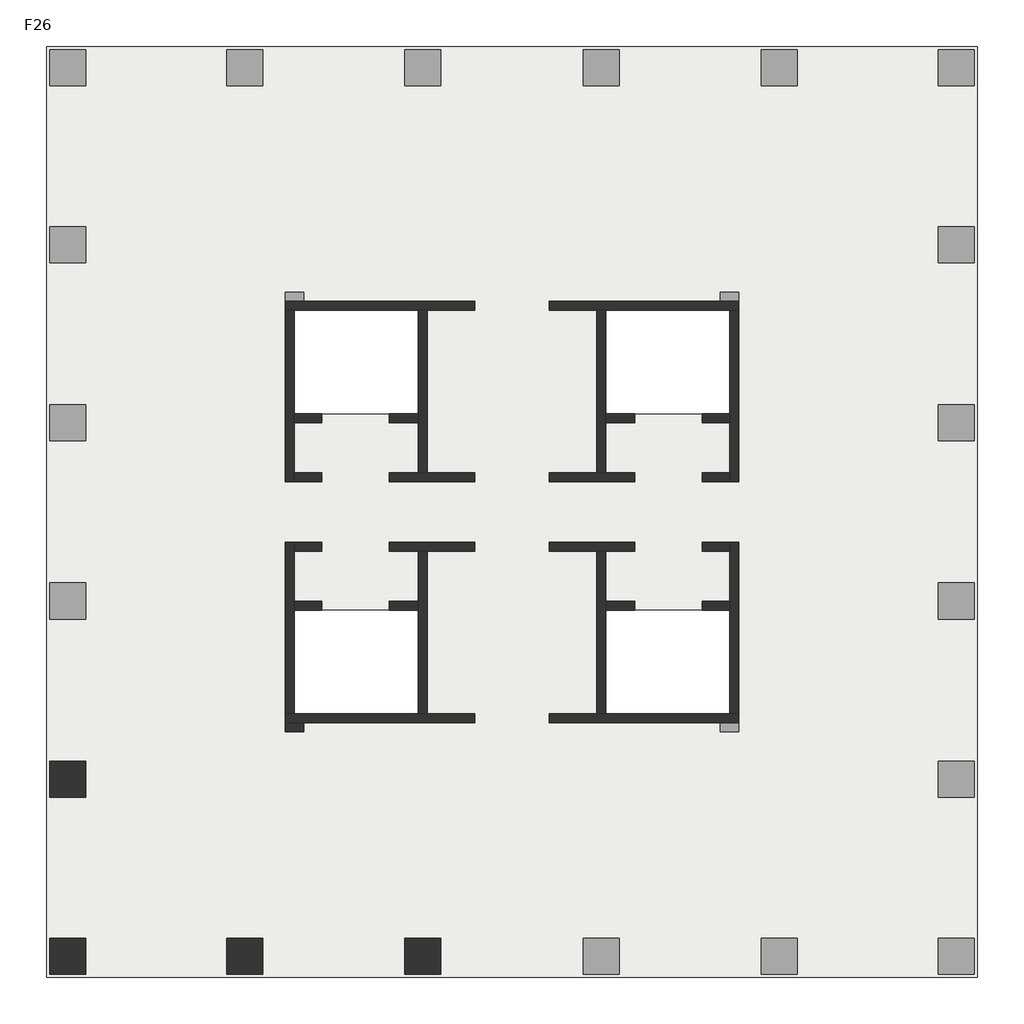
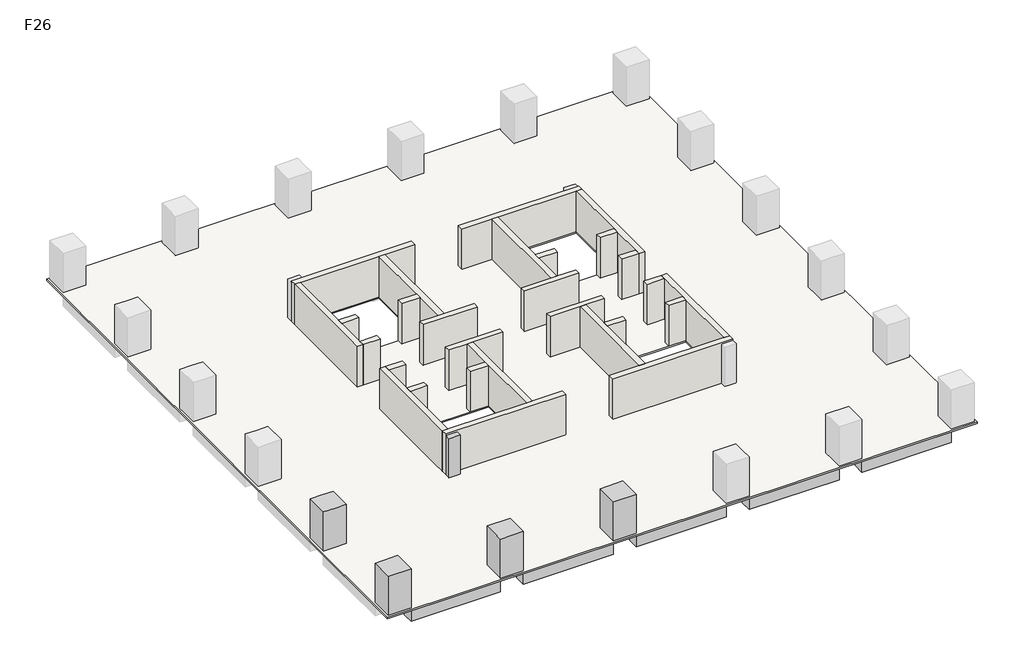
# One storey, part 1 of 2: 28 walls, 5 columns, 3 beams, 1 slab.
"""IFC4 building model written with IfcOpenShell, lengths in millimetres."""

from ifc_helpers import new_model, si_unit, frame, origin, place, context, project, spatial, polyline, outline, extrude, faceted_brep, element, save

model = new_model("IFC4")

# Units and contexts
model_context = context("Model", 3, world=origin())
ifc_project = project(units=[si_unit("LENGTHUNIT", "METRE", prefix="MILLI")], contexts=[model_context])

# Site, building, storey
site = spatial("IfcSite", under=ifc_project)
building = spatial("IfcBuilding", under=site)
storey = spatial("IfcBuildingStorey", under=building, Name="F26", Elevation=96000.0)

# Beams
placement = place(None, origin())
element("IfcBeam", 1, ObjectType="混凝土 - 矩形梁 : KL(5)-800x1000", at=placement, inside=storey, context=model_context, shape_type="SweptSolid", body=[
    extrude(outline(polyline([(-12472.6742169, -13948.9501342), (-12472.6742169, -13148.9501342), (-6222.6742169, -13148.9501342), (-6222.6742169, -13948.9501342), (-12472.6742169, -13948.9501342)])), frame((0.0, 0.0, 95000.0), z_axis=(0.0, 0.0, 1.0), x_axis=(1.0, 0.0, 0.0)), (0.0, 0.0, 1.0), 900.0),
    extrude(outline(polyline([(25327.3257831, -13148.9501342), (25327.3257831, -13948.9501342), (19077.3257831, -13948.9501342), (19077.3257831, -13148.9501342), (25327.3257831, -13148.9501342)])), frame((0.0, 0.0, 95000.0), z_axis=(0.0, 0.0, 1.0), x_axis=(1.0, 0.0, 0.0)), (0.0, 0.0, 1.0), 900.0),
    extrude(outline(polyline([(-4622.6742169, -13948.9501342), (-4622.6742169, -13148.9501342), (1677.3257831, -13148.9501342), (1677.3257831, -13948.9501342), (-4622.6742169, -13948.9501342)])), frame((0.0, 0.0, 95000.0), z_axis=(0.0, 0.0, 1.0), x_axis=(1.0, 0.0, 0.0)), (0.0, 0.0, 1.0), 900.0),
    extrude(outline(polyline([(3277.3257831, -13948.9501342), (3277.3257831, -13148.9501342), (9577.3257831, -13148.9501342), (9577.3257831, -13948.9501342), (3277.3257831, -13948.9501342)])), frame((0.0, 0.0, 95000.0), z_axis=(0.0, 0.0, 1.0), x_axis=(1.0, 0.0, 0.0)), (0.0, 0.0, 1.0), 900.0),
    extrude(outline(polyline([(11177.3257831, -13948.9501342), (11177.3257831, -13148.9501342), (17477.3257831, -13148.9501342), (17477.3257831, -13948.9501342), (11177.3257831, -13948.9501342)])), frame((0.0, 0.0, 95000.0), z_axis=(0.0, 0.0, 1.0), x_axis=(1.0, 0.0, 0.0)), (0.0, 0.0, 1.0), 900.0),
])
element("IfcBeam", 2, ObjectType="混凝土 - 矩形梁 : L1-800x500", at=placement, inside=storey, context=model_context, shape_type="Brep", body=[
    faceted_brep([(-12472.6742169, -5512.1353397, 95500.0), (-3746.9473979, -3341.556529, 95500.0), (-3173.6696907, -3198.9501342, 95500.0), (-3173.6696907, -3198.9501342, 95900.0), (-3746.9473979, -3341.556529, 95900.0), (-12472.6742169, -5512.1353397, 95900.0), (-3622.6742169, -3198.9501342, 95500.0), (-12472.6742169, -4687.7549784, 95500.0), (-3622.6742169, -2486.2624411, 95500.0), (-3622.6742169, -2798.9501342, 95500.0), (-12472.6742169, -4687.7549784, 95900.0), (-3622.6742169, -2486.2624411, 95900.0), (-3622.6742169, -3198.9501342, 95900.0)], [[[0, 1, 2, 3, 4, 5]], [[6, 2, 1, 0, 7, 8, 9]], [[8, 7, 10, 11]], [[2, 6, 12, 3]], [[9, 8, 11, 12, 6]], [[7, 0, 5, 10]], [[5, 4, 3, 12, 11, 10]]]),
])
element("IfcBeam", 3, ObjectType="混凝土 - 矩形梁 : L1-800x500", at=placement, inside=storey, context=model_context, shape_type="SweptSolid", body=[
    extrude(outline(polyline([(-3746.9473979, -3341.556529), (-3173.6696907, -3198.9501342), (-2898.7618154, -3198.9501342), (-4843.6893517, -12348.9501342), (-5661.5624638, -12348.9501342), (-3746.9473979, -3341.556529)])), frame((0.0, 0.0, 95500.0), z_axis=(0.0, 0.0, 1.0), x_axis=(1.0, 0.0, 0.0)), (0.0, 0.0, 1.0), 400.0),
])

# Columns
element("IfcColumn", 4, ObjectType="混凝土 - 矩形 - 柱 : Z1-1600x1600", at=placement, inside=storey, context=model_context, shape_type="Brep", body=[
    faceted_brep([(-12472.6742169, -4498.9501342, 96000.0), (-12472.6742169, -6098.9501342, 96000.0), (-14072.6742169, -6098.9501342, 96000.0), (-14072.6742169, -4498.9501342, 96000.0), (-12472.6742169, -4498.9501342, 98900.0), (-12472.6742169, -6098.9501342, 98900.0), (-13272.6742169, -6098.9501342, 98900.0), (-14072.6742169, -6098.9501342, 98900.0), (-14072.6742169, -6098.9501342, 98000.0), (-14072.6742169, -4498.9501342, 98900.0), (-14072.6742169, -4498.9501342, 98000.0), (-13272.6742169, -4498.9501342, 98900.0)], [[[0, 1, 2, 3]], [[1, 0, 4, 5]], [[2, 1, 5, 6, 7, 8]], [[3, 2, 8, 7, 9, 10]], [[0, 3, 10, 9, 11, 4]], [[5, 4, 11, 9, 7, 6]]]),
])
element("IfcColumn", 5, ObjectType="混凝土 - 矩形 - 柱 : Z1-1600x1600", at=placement, inside=storey, context=model_context, shape_type="SweptSolid", body=[
    extrude(outline(polyline([(-12472.6742169, -12348.9501342), (-12472.6742169, -13948.9501342), (-14072.6742169, -13948.9501342), (-14072.6742169, -12348.9501342), (-12472.6742169, -12348.9501342)])), frame((0.0, 0.0, 96000.0), z_axis=(0.0, 0.0, 1.0), x_axis=(1.0, 0.0, 0.0)), (0.0, 0.0, 1.0), 2900.0),
])
element("IfcColumn", 6, ObjectType="混凝土 - 矩形 - 柱 : Z1-1600x1600", at=placement, inside=storey, context=model_context, shape_type="Brep", body=[
    faceted_brep([(-4622.6742169, -12348.9501342, 96000.0), (-4622.6742169, -13948.9501342, 96000.0), (-6222.6742169, -13948.9501342, 96000.0), (-6222.6742169, -12348.9501342, 96000.0), (-4622.6742169, -12348.9501342, 98900.0), (-4622.6742169, -13148.9501342, 98900.0), (-4622.6742169, -13948.9501342, 98900.0), (-4622.6742169, -13948.9501342, 98000.0), (-6222.6742169, -13948.9501342, 98900.0), (-6222.6742169, -13948.9501342, 98000.0), (-6222.6742169, -13148.9501342, 98900.0), (-6222.6742169, -12348.9501342, 98900.0)], [[[0, 1, 2, 3]], [[1, 0, 4, 5, 6, 7]], [[2, 1, 7, 6, 8, 9]], [[3, 2, 9, 8, 10, 11]], [[0, 3, 11, 4]], [[6, 5, 4, 11, 10, 8]]]),
])
element("IfcColumn", 7, ObjectType="混凝土 - 矩形 - 柱 : Z1-1600x1600", at=placement, inside=storey, context=model_context, shape_type="Brep", body=[
    faceted_brep([(3277.3257831, -12348.9501342, 96000.0), (3277.3257831, -13948.9501342, 96000.0), (1677.3257831, -13948.9501342, 96000.0), (1677.3257831, -12348.9501342, 96000.0), (3277.3257831, -12348.9501342, 98900.0), (3277.3257831, -13148.9501342, 98900.0), (3277.3257831, -13948.9501342, 98900.0), (3277.3257831, -13948.9501342, 98000.0), (1677.3257831, -13948.9501342, 98900.0), (1677.3257831, -13948.9501342, 98000.0), (1677.3257831, -13148.9501342, 98900.0), (1677.3257831, -12348.9501342, 98900.0)], [[[0, 1, 2, 3]], [[1, 0, 4, 5, 6, 7]], [[2, 1, 7, 6, 8, 9]], [[3, 2, 9, 8, 10, 11]], [[0, 3, 11, 4]], [[6, 5, 4, 11, 10, 8]]]),
])
element("IfcColumn", 8, ObjectType="混凝土 - 矩形 - 柱 : Z2-800x800", at=placement, inside=storey, context=model_context, shape_type="SweptSolid", body=[
    extrude(outline(polyline([(-2822.6742169, -3198.9501342), (-3622.6742169, -3198.9501342), (-3622.6742169, -2798.9501342), (-2822.6742169, -2798.9501342), (-2822.6742169, -3198.9501342)])), frame((0.0, 0.0, 96000.0), z_axis=(0.0, 0.0, 1.0), x_axis=(1.0, 0.0, 0.0)), (0.0, 0.0, 1.0), 2900.0),
])

# Slab
element("IfcSlab", 9, ObjectType="LB-100", at=placement, inside=storey, context=model_context, shape_type="SweptSolid", body=[
    extrude(outline(polyline([(27077.3257831, 27201.0498658), (27077.3257831, -14085.2672073), (-14222.6742169, -14085.2672073), (-14222.6742169, 27201.0498658), (27077.3257831, 27201.0498658)]), holes=[polyline([(2277.3257831, 15501.0498658), (-3222.6742169, 15501.0498658), (-3222.6742169, 10901.0498658), (2277.3257831, 10901.0498658), (2277.3257831, 15501.0498658)]), polyline([(2277.3257831, 2201.0498658), (-3222.6742169, 2201.0498658), (-3222.6742169, -2398.9501342), (2277.3257831, -2398.9501342), (2277.3257831, 2201.0498658)]), polyline([(16077.3257831, 2201.0498658), (10577.3257831, 2201.0498658), (10577.3257831, -2398.9501342), (16077.3257831, -2398.9501342), (16077.3257831, 2201.0498658)]), polyline([(16077.3257831, 15501.0498658), (10577.3257831, 15501.0498658), (10577.3257831, 10901.0498658), (16077.3257831, 10901.0498658), (16077.3257831, 15501.0498658)])]), frame((0.0, 0.0, 95900.0), z_axis=(0.0, 0.0, 1.0), x_axis=(1.0, 0.0, 0.0)), (0.0, 0.0, 1.0), 100.0),
])

# Walls
element("IfcWall", 10, ObjectType="剪力墙-400", at=placement, inside=storey, context=model_context, shape_type="Brep", body=[
    faceted_brep([(-3622.6742169, 15501.0498658, 96000.0), (-3222.6742169, 15501.0498658, 96000.0), (2277.3257831, 15501.0498658, 96000.0), (2677.3257831, 15501.0498658, 96000.0), (4777.3257831, 15501.0498658, 96000.0), (4777.3257831, 15501.0498658, 99000.0), (2677.3257831, 15501.0498658, 99000.0), (2277.3257831, 15501.0498658, 99000.0), (-3222.6742169, 15501.0498658, 99000.0), (-3622.6742169, 15501.0498658, 99000.0), (-3622.6742169, 15901.0498658, 96000.0), (-3622.6742169, 15901.0498658, 98900.0), (-3622.6742169, 15901.0498658, 99000.0), (4777.3257831, 15901.0498658, 99000.0), (4777.3257831, 15901.0498658, 96000.0), (-2822.6742169, 15901.0498658, 96000.0)], [[[0, 1, 2, 3, 4, 5, 6, 7, 8, 9]], [[10, 11, 12, 13, 14, 15]], [[4, 3, 2, 1, 0, 10, 15, 14]], [[5, 4, 14, 13]], [[9, 8, 7, 6, 5, 13, 12]], [[0, 9, 12, 11, 10]]]),
])
element("IfcWall", 11, ObjectType="剪力墙-400", at=placement, inside=storey, context=model_context, shape_type="Brep", body=[
    faceted_brep([(2277.3257831, 15501.0498658, 96000.0), (2277.3257831, 10901.0498658, 96000.0), (2277.3257831, 10501.0498658, 96000.0), (2277.3257831, 8301.0498658, 96000.0), (2277.3257831, 8301.0498658, 99000.0), (2277.3257831, 10501.0498658, 99000.0), (2277.3257831, 10901.0498658, 99000.0), (2277.3257831, 15501.0498658, 99000.0), (2677.3257831, 15501.0498658, 96000.0), (2677.3257831, 15501.0498658, 99000.0), (2677.3257831, 8301.0498658, 99000.0), (2677.3257831, 8301.0498658, 96000.0)], [[[0, 1, 2, 3, 4, 5, 6, 7]], [[8, 9, 10, 11]], [[3, 2, 1, 0, 8, 11]], [[7, 6, 5, 4, 10, 9]], [[0, 7, 9, 8]], [[4, 3, 11, 10]]]),
])
element("IfcWall", 12, ObjectType="剪力墙-400", at=placement, inside=storey, context=model_context, shape_type="Brep", body=[
    faceted_brep([(-3622.6742169, 15501.0498658, 96000.0), (-3622.6742169, 7901.0498658, 96000.0), (-3622.6742169, 7901.0498658, 99000.0), (-3622.6742169, 15501.0498658, 99000.0), (-3222.6742169, 15501.0498658, 96000.0), (-3222.6742169, 15501.0498658, 99000.0), (-3222.6742169, 10901.0498658, 99000.0), (-3222.6742169, 10501.0498658, 99000.0), (-3222.6742169, 8301.0498658, 99000.0), (-3222.6742169, 7901.0498658, 99000.0), (-3222.6742169, 7901.0498658, 96000.0), (-3222.6742169, 8301.0498658, 96000.0), (-3222.6742169, 10501.0498658, 96000.0), (-3222.6742169, 10901.0498658, 96000.0)], [[[0, 1, 2, 3]], [[4, 5, 6, 7, 8, 9, 10, 11, 12, 13]], [[1, 0, 4, 13, 12, 11, 10]], [[3, 2, 9, 8, 7, 6, 5]], [[0, 3, 5, 4]], [[2, 1, 10, 9]]]),
])
element("IfcWall", 13, ObjectType="剪力墙-400", at=placement, inside=storey, context=model_context, shape_type="SweptSolid", body=[
    extrude(outline(polyline([(-2022.6742169, 7901.0498658), (-3222.6742169, 7901.0498658), (-3222.6742169, 8301.0498658), (-2022.6742169, 8301.0498658), (-2022.6742169, 7901.0498658)])), frame((0.0, 0.0, 96000.0), z_axis=(0.0, 0.0, 1.0), x_axis=(1.0, 0.0, 0.0)), (0.0, 0.0, 1.0), 3000.0),
])
element("IfcWall", 14, ObjectType="剪力墙-400", at=placement, inside=storey, context=model_context, shape_type="Brep", body=[
    faceted_brep([(977.3257831, 7901.0498658, 96000.0), (4777.3257831, 7901.0498658, 96000.0), (4777.3257831, 7901.0498658, 99000.0), (977.3257831, 7901.0498658, 99000.0), (977.3257831, 8301.0498658, 96000.0), (977.3257831, 8301.0498658, 99000.0), (2277.3257831, 8301.0498658, 99000.0), (2677.3257831, 8301.0498658, 99000.0), (4777.3257831, 8301.0498658, 99000.0), (4777.3257831, 8301.0498658, 96000.0), (2677.3257831, 8301.0498658, 96000.0), (2277.3257831, 8301.0498658, 96000.0)], [[[0, 1, 2, 3]], [[4, 5, 6, 7, 8, 9, 10, 11]], [[1, 0, 4, 11, 10, 9]], [[2, 1, 9, 8]], [[3, 2, 8, 7, 6, 5]], [[0, 3, 5, 4]]]),
])
element("IfcWall", 15, ObjectType="剪力墙-400", at=placement, inside=storey, context=model_context, shape_type="SweptSolid", body=[
    extrude(outline(polyline([(-2022.6742169, 10501.0498658), (-3222.6742169, 10501.0498658), (-3222.6742169, 10901.0498658), (-2022.6742169, 10901.0498658), (-2022.6742169, 10501.0498658)])), frame((0.0, 0.0, 96000.0), z_axis=(0.0, 0.0, 1.0), x_axis=(1.0, 0.0, 0.0)), (0.0, 0.0, 1.0), 3000.0),
])
element("IfcWall", 16, ObjectType="剪力墙-400", at=placement, inside=storey, context=model_context, shape_type="SweptSolid", body=[
    extrude(outline(polyline([(2277.3257831, 10501.0498658), (977.3257831, 10501.0498658), (977.3257831, 10901.0498658), (2277.3257831, 10901.0498658), (2277.3257831, 10501.0498658)])), frame((0.0, 0.0, 96000.0), z_axis=(0.0, 0.0, 1.0), x_axis=(1.0, 0.0, 0.0)), (0.0, 0.0, 1.0), 3000.0),
])
element("IfcWall", 17, ObjectType="剪力墙-400", at=placement, inside=storey, context=model_context, shape_type="Brep", body=[
    faceted_brep([(16477.3257831, 15901.0498658, 96000.0), (15677.3257831, 15901.0498658, 96000.0), (8077.3257831, 15901.0498658, 96000.0), (8077.3257831, 15901.0498658, 99000.0), (16477.3257831, 15901.0498658, 99000.0), (16477.3257831, 15901.0498658, 98900.0), (16477.3257831, 15501.0498658, 96000.0), (16477.3257831, 15501.0498658, 99000.0), (16077.3257831, 15501.0498658, 99000.0), (10577.3257831, 15501.0498658, 99000.0), (10177.3257831, 15501.0498658, 99000.0), (8077.3257831, 15501.0498658, 99000.0), (8077.3257831, 15501.0498658, 96000.0), (10177.3257831, 15501.0498658, 96000.0), (10577.3257831, 15501.0498658, 96000.0), (16077.3257831, 15501.0498658, 96000.0)], [[[0, 1, 2, 3, 4, 5]], [[6, 7, 8, 9, 10, 11, 12, 13, 14, 15]], [[2, 1, 0, 6, 15, 14, 13, 12]], [[3, 2, 12, 11]], [[4, 3, 11, 10, 9, 8, 7]], [[0, 5, 4, 7, 6]]]),
])
element("IfcWall", 18, ObjectType="剪力墙-400", at=placement, inside=storey, context=model_context, shape_type="Brep", body=[
    faceted_brep([(10177.3257831, 15501.0498658, 96000.0), (10177.3257831, 8301.0498658, 96000.0), (10177.3257831, 8301.0498658, 99000.0), (10177.3257831, 15501.0498658, 99000.0), (10577.3257831, 15501.0498658, 96000.0), (10577.3257831, 15501.0498658, 99000.0), (10577.3257831, 10901.0498658, 99000.0), (10577.3257831, 10501.0498658, 99000.0), (10577.3257831, 8301.0498658, 99000.0), (10577.3257831, 8301.0498658, 96000.0), (10577.3257831, 10501.0498658, 96000.0), (10577.3257831, 10901.0498658, 96000.0)], [[[0, 1, 2, 3]], [[4, 5, 6, 7, 8, 9, 10, 11]], [[1, 0, 4, 11, 10, 9]], [[3, 2, 8, 7, 6, 5]], [[0, 3, 5, 4]], [[2, 1, 9, 8]]]),
])
element("IfcWall", 19, ObjectType="剪力墙-400", at=placement, inside=storey, context=model_context, shape_type="Brep", body=[
    faceted_brep([(16077.3257831, 15501.0498658, 96000.0), (16077.3257831, 10901.0498658, 96000.0), (16077.3257831, 10501.0498658, 96000.0), (16077.3257831, 8301.0498658, 96000.0), (16077.3257831, 7901.0498658, 96000.0), (16077.3257831, 7901.0498658, 99000.0), (16077.3257831, 8301.0498658, 99000.0), (16077.3257831, 10501.0498658, 99000.0), (16077.3257831, 10901.0498658, 99000.0), (16077.3257831, 15501.0498658, 99000.0), (16477.3257831, 15501.0498658, 96000.0), (16477.3257831, 15501.0498658, 99000.0), (16477.3257831, 7901.0498658, 99000.0), (16477.3257831, 7901.0498658, 96000.0)], [[[0, 1, 2, 3, 4, 5, 6, 7, 8, 9]], [[10, 11, 12, 13]], [[4, 3, 2, 1, 0, 10, 13]], [[9, 8, 7, 6, 5, 12, 11]], [[0, 9, 11, 10]], [[5, 4, 13, 12]]]),
])
element("IfcWall", 20, ObjectType="剪力墙-400", at=placement, inside=storey, context=model_context, shape_type="SweptSolid", body=[
    extrude(outline(polyline([(14877.3257831, 8301.0498658), (16077.3257831, 8301.0498658), (16077.3257831, 7901.0498658), (14877.3257831, 7901.0498658), (14877.3257831, 8301.0498658)])), frame((0.0, 0.0, 96000.0), z_axis=(0.0, 0.0, 1.0), x_axis=(1.0, 0.0, 0.0)), (0.0, 0.0, 1.0), 3000.0),
])
element("IfcWall", 21, ObjectType="剪力墙-400", at=placement, inside=storey, context=model_context, shape_type="Brep", body=[
    faceted_brep([(11877.3257831, 8301.0498658, 96000.0), (10577.3257831, 8301.0498658, 96000.0), (10177.3257831, 8301.0498658, 96000.0), (8077.3257831, 8301.0498658, 96000.0), (8077.3257831, 8301.0498658, 99000.0), (10177.3257831, 8301.0498658, 99000.0), (10577.3257831, 8301.0498658, 99000.0), (11877.3257831, 8301.0498658, 99000.0), (11877.3257831, 7901.0498658, 96000.0), (11877.3257831, 7901.0498658, 99000.0), (8077.3257831, 7901.0498658, 99000.0), (8077.3257831, 7901.0498658, 96000.0)], [[[0, 1, 2, 3, 4, 5, 6, 7]], [[8, 9, 10, 11]], [[3, 2, 1, 0, 8, 11]], [[4, 3, 11, 10]], [[7, 6, 5, 4, 10, 9]], [[0, 7, 9, 8]]]),
])
element("IfcWall", 22, ObjectType="剪力墙-400", at=placement, inside=storey, context=model_context, shape_type="SweptSolid", body=[
    extrude(outline(polyline([(14877.3257831, 10901.0498658), (16077.3257831, 10901.0498658), (16077.3257831, 10501.0498658), (14877.3257831, 10501.0498658), (14877.3257831, 10901.0498658)])), frame((0.0, 0.0, 96000.0), z_axis=(0.0, 0.0, 1.0), x_axis=(1.0, 0.0, 0.0)), (0.0, 0.0, 1.0), 3000.0),
])
element("IfcWall", 23, ObjectType="剪力墙-400", at=placement, inside=storey, context=model_context, shape_type="SweptSolid", body=[
    extrude(outline(polyline([(10577.3257831, 10901.0498658), (11877.3257831, 10901.0498658), (11877.3257831, 10501.0498658), (10577.3257831, 10501.0498658), (10577.3257831, 10901.0498658)])), frame((0.0, 0.0, 96000.0), z_axis=(0.0, 0.0, 1.0), x_axis=(1.0, 0.0, 0.0)), (0.0, 0.0, 1.0), 3000.0),
])
element("IfcWall", 24, ObjectType="剪力墙-400", at=placement, inside=storey, context=model_context, shape_type="Brep", body=[
    faceted_brep([(-3622.6742169, -2798.9501342, 96000.0), (-2822.6742169, -2798.9501342, 96000.0), (4777.3257831, -2798.9501342, 96000.0), (4777.3257831, -2798.9501342, 99000.0), (-3622.6742169, -2798.9501342, 99000.0), (-3622.6742169, -2798.9501342, 98900.0), (-3622.6742169, -2398.9501342, 96000.0), (-3622.6742169, -2398.9501342, 99000.0), (-3222.6742169, -2398.9501342, 99000.0), (2277.3257831, -2398.9501342, 99000.0), (2677.3257831, -2398.9501342, 99000.0), (4777.3257831, -2398.9501342, 99000.0), (4777.3257831, -2398.9501342, 96000.0), (2677.3257831, -2398.9501342, 96000.0), (2277.3257831, -2398.9501342, 96000.0), (-3222.6742169, -2398.9501342, 96000.0)], [[[0, 1, 2, 3, 4, 5]], [[6, 7, 8, 9, 10, 11, 12, 13, 14, 15]], [[2, 1, 0, 6, 15, 14, 13, 12]], [[3, 2, 12, 11]], [[4, 3, 11, 10, 9, 8, 7]], [[0, 5, 4, 7, 6]]]),
])
element("IfcWall", 25, ObjectType="剪力墙-400", at=placement, inside=storey, context=model_context, shape_type="Brep", body=[
    faceted_brep([(2677.3257831, -2398.9501342, 96000.0), (2677.3257831, 4801.0498658, 96000.0), (2677.3257831, 4801.0498658, 99000.0), (2677.3257831, -2398.9501342, 99000.0), (2277.3257831, -2398.9501342, 96000.0), (2277.3257831, -2398.9501342, 99000.0), (2277.3257831, 2201.0498658, 99000.0), (2277.3257831, 2601.0498658, 99000.0), (2277.3257831, 4801.0498658, 99000.0), (2277.3257831, 4801.0498658, 96000.0), (2277.3257831, 2601.0498658, 96000.0), (2277.3257831, 2201.0498658, 96000.0)], [[[0, 1, 2, 3]], [[4, 5, 6, 7, 8, 9, 10, 11]], [[1, 0, 4, 11, 10, 9]], [[3, 2, 8, 7, 6, 5]], [[0, 3, 5, 4]], [[2, 1, 9, 8]]]),
])
element("IfcWall", 26, ObjectType="剪力墙-400", at=placement, inside=storey, context=model_context, shape_type="Brep", body=[
    faceted_brep([(-3222.6742169, -2398.9501342, 96000.0), (-3222.6742169, 2201.0498658, 96000.0), (-3222.6742169, 2601.0498658, 96000.0), (-3222.6742169, 4801.0498658, 96000.0), (-3222.6742169, 5201.0498658, 96000.0), (-3222.6742169, 5201.0498658, 99000.0), (-3222.6742169, 4801.0498658, 99000.0), (-3222.6742169, 2601.0498658, 99000.0), (-3222.6742169, 2201.0498658, 99000.0), (-3222.6742169, -2398.9501342, 99000.0), (-3622.6742169, -2398.9501342, 96000.0), (-3622.6742169, -2398.9501342, 99000.0), (-3622.6742169, 5201.0498658, 99000.0), (-3622.6742169, 5201.0498658, 96000.0)], [[[0, 1, 2, 3, 4, 5, 6, 7, 8, 9]], [[10, 11, 12, 13]], [[4, 3, 2, 1, 0, 10, 13]], [[9, 8, 7, 6, 5, 12, 11]], [[0, 9, 11, 10]], [[5, 4, 13, 12]]]),
])
element("IfcWall", 27, ObjectType="剪力墙-400", at=placement, inside=storey, context=model_context, shape_type="SweptSolid", body=[
    extrude(outline(polyline([(-2022.6742169, 4801.0498658), (-3222.6742169, 4801.0498658), (-3222.6742169, 5201.0498658), (-2022.6742169, 5201.0498658), (-2022.6742169, 4801.0498658)])), frame((0.0, 0.0, 96000.0), z_axis=(0.0, 0.0, 1.0), x_axis=(1.0, 0.0, 0.0)), (0.0, 0.0, 1.0), 3000.0),
])
element("IfcWall", 28, ObjectType="剪力墙-400", at=placement, inside=storey, context=model_context, shape_type="Brep", body=[
    faceted_brep([(977.3257831, 4801.0498658, 96000.0), (2277.3257831, 4801.0498658, 96000.0), (2677.3257831, 4801.0498658, 96000.0), (4777.3257831, 4801.0498658, 96000.0), (4777.3257831, 4801.0498658, 99000.0), (2677.3257831, 4801.0498658, 99000.0), (2277.3257831, 4801.0498658, 99000.0), (977.3257831, 4801.0498658, 99000.0), (977.3257831, 5201.0498658, 96000.0), (977.3257831, 5201.0498658, 99000.0), (4777.3257831, 5201.0498658, 99000.0), (4777.3257831, 5201.0498658, 96000.0)], [[[0, 1, 2, 3, 4, 5, 6, 7]], [[8, 9, 10, 11]], [[3, 2, 1, 0, 8, 11]], [[4, 3, 11, 10]], [[7, 6, 5, 4, 10, 9]], [[0, 7, 9, 8]]]),
])
element("IfcWall", 29, ObjectType="剪力墙-400", at=placement, inside=storey, context=model_context, shape_type="SweptSolid", body=[
    extrude(outline(polyline([(-2022.6742169, 2201.0498658), (-3222.6742169, 2201.0498658), (-3222.6742169, 2601.0498658), (-2022.6742169, 2601.0498658), (-2022.6742169, 2201.0498658)])), frame((0.0, 0.0, 96000.0), z_axis=(0.0, 0.0, 1.0), x_axis=(1.0, 0.0, 0.0)), (0.0, 0.0, 1.0), 3000.0),
])
element("IfcWall", 30, ObjectType="剪力墙-400", at=placement, inside=storey, context=model_context, shape_type="SweptSolid", body=[
    extrude(outline(polyline([(2277.3257831, 2201.0498658), (977.3257831, 2201.0498658), (977.3257831, 2601.0498658), (2277.3257831, 2601.0498658), (2277.3257831, 2201.0498658)])), frame((0.0, 0.0, 96000.0), z_axis=(0.0, 0.0, 1.0), x_axis=(1.0, 0.0, 0.0)), (0.0, 0.0, 1.0), 3000.0),
])
element("IfcWall", 31, ObjectType="剪力墙-400", at=placement, inside=storey, context=model_context, shape_type="Brep", body=[
    faceted_brep([(16477.3257831, -2398.9501342, 96000.0), (16077.3257831, -2398.9501342, 96000.0), (10577.3257831, -2398.9501342, 96000.0), (10177.3257831, -2398.9501342, 96000.0), (8077.3257831, -2398.9501342, 96000.0), (8077.3257831, -2398.9501342, 99000.0), (10177.3257831, -2398.9501342, 99000.0), (10577.3257831, -2398.9501342, 99000.0), (16077.3257831, -2398.9501342, 99000.0), (16477.3257831, -2398.9501342, 99000.0), (16477.3257831, -2798.9501342, 96000.0), (16477.3257831, -2798.9501342, 98900.0), (16477.3257831, -2798.9501342, 99000.0), (8077.3257831, -2798.9501342, 99000.0), (8077.3257831, -2798.9501342, 96000.0), (15677.3257831, -2798.9501342, 96000.0)], [[[0, 1, 2, 3, 4, 5, 6, 7, 8, 9]], [[10, 11, 12, 13, 14, 15]], [[4, 3, 2, 1, 0, 10, 15, 14]], [[5, 4, 14, 13]], [[9, 8, 7, 6, 5, 13, 12]], [[0, 9, 12, 11, 10]]]),
])
element("IfcWall", 32, ObjectType="剪力墙-400", at=placement, inside=storey, context=model_context, shape_type="Brep", body=[
    faceted_brep([(10577.3257831, -2398.9501342, 96000.0), (10577.3257831, 2201.0498658, 96000.0), (10577.3257831, 2601.0498658, 96000.0), (10577.3257831, 4801.0498658, 96000.0), (10577.3257831, 4801.0498658, 99000.0), (10577.3257831, 2601.0498658, 99000.0), (10577.3257831, 2201.0498658, 99000.0), (10577.3257831, -2398.9501342, 99000.0), (10177.3257831, -2398.9501342, 96000.0), (10177.3257831, -2398.9501342, 99000.0), (10177.3257831, 4801.0498658, 99000.0), (10177.3257831, 4801.0498658, 96000.0)], [[[0, 1, 2, 3, 4, 5, 6, 7]], [[8, 9, 10, 11]], [[3, 2, 1, 0, 8, 11]], [[7, 6, 5, 4, 10, 9]], [[0, 7, 9, 8]], [[4, 3, 11, 10]]]),
])
element("IfcWall", 33, ObjectType="剪力墙-400", at=placement, inside=storey, context=model_context, shape_type="Brep", body=[
    faceted_brep([(16477.3257831, -2398.9501342, 96000.0), (16477.3257831, 5201.0498658, 96000.0), (16477.3257831, 5201.0498658, 99000.0), (16477.3257831, -2398.9501342, 99000.0), (16077.3257831, -2398.9501342, 96000.0), (16077.3257831, -2398.9501342, 99000.0), (16077.3257831, 2201.0498658, 99000.0), (16077.3257831, 2601.0498658, 99000.0), (16077.3257831, 4801.0498658, 99000.0), (16077.3257831, 5201.0498658, 99000.0), (16077.3257831, 5201.0498658, 96000.0), (16077.3257831, 4801.0498658, 96000.0), (16077.3257831, 2601.0498658, 96000.0), (16077.3257831, 2201.0498658, 96000.0)], [[[0, 1, 2, 3]], [[4, 5, 6, 7, 8, 9, 10, 11, 12, 13]], [[1, 0, 4, 13, 12, 11, 10]], [[3, 2, 9, 8, 7, 6, 5]], [[0, 3, 5, 4]], [[2, 1, 10, 9]]]),
])
element("IfcWall", 34, ObjectType="剪力墙-400", at=placement, inside=storey, context=model_context, shape_type="SweptSolid", body=[
    extrude(outline(polyline([(14877.3257831, 5201.0498658), (16077.3257831, 5201.0498658), (16077.3257831, 4801.0498658), (14877.3257831, 4801.0498658), (14877.3257831, 5201.0498658)])), frame((0.0, 0.0, 96000.0), z_axis=(0.0, 0.0, 1.0), x_axis=(1.0, 0.0, 0.0)), (0.0, 0.0, 1.0), 3000.0),
])
element("IfcWall", 35, ObjectType="剪力墙-400", at=placement, inside=storey, context=model_context, shape_type="Brep", body=[
    faceted_brep([(11877.3257831, 5201.0498658, 96000.0), (8077.3257831, 5201.0498658, 96000.0), (8077.3257831, 5201.0498658, 99000.0), (11877.3257831, 5201.0498658, 99000.0), (11877.3257831, 4801.0498658, 96000.0), (11877.3257831, 4801.0498658, 99000.0), (10577.3257831, 4801.0498658, 99000.0), (10177.3257831, 4801.0498658, 99000.0), (8077.3257831, 4801.0498658, 99000.0), (8077.3257831, 4801.0498658, 96000.0), (10177.3257831, 4801.0498658, 96000.0), (10577.3257831, 4801.0498658, 96000.0)], [[[0, 1, 2, 3]], [[4, 5, 6, 7, 8, 9, 10, 11]], [[1, 0, 4, 11, 10, 9]], [[2, 1, 9, 8]], [[3, 2, 8, 7, 6, 5]], [[0, 3, 5, 4]]]),
])
element("IfcWall", 36, ObjectType="剪力墙-400", at=placement, inside=storey, context=model_context, shape_type="SweptSolid", body=[
    extrude(outline(polyline([(14877.3257831, 2601.0498658), (16077.3257831, 2601.0498658), (16077.3257831, 2201.0498658), (14877.3257831, 2201.0498658), (14877.3257831, 2601.0498658)])), frame((0.0, 0.0, 96000.0), z_axis=(0.0, 0.0, 1.0), x_axis=(1.0, 0.0, 0.0)), (0.0, 0.0, 1.0), 3000.0),
])
element("IfcWall", 37, ObjectType="剪力墙-400", at=placement, inside=storey, context=model_context, shape_type="SweptSolid", body=[
    extrude(outline(polyline([(10577.3257831, 2601.0498658), (11877.3257831, 2601.0498658), (11877.3257831, 2201.0498658), (10577.3257831, 2201.0498658), (10577.3257831, 2601.0498658)])), frame((0.0, 0.0, 96000.0), z_axis=(0.0, 0.0, 1.0), x_axis=(1.0, 0.0, 0.0)), (0.0, 0.0, 1.0), 3000.0),
])

save(model, "model.ifc")
